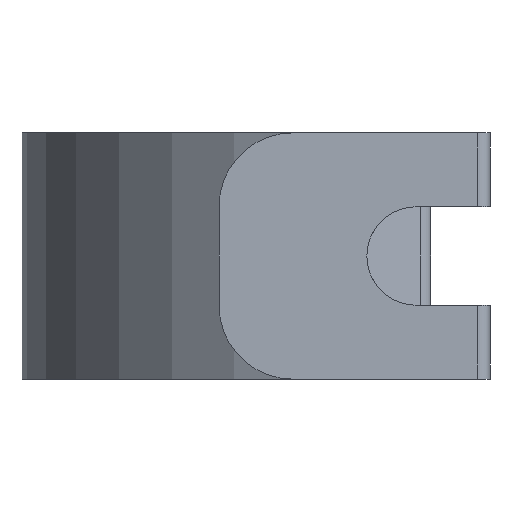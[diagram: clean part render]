
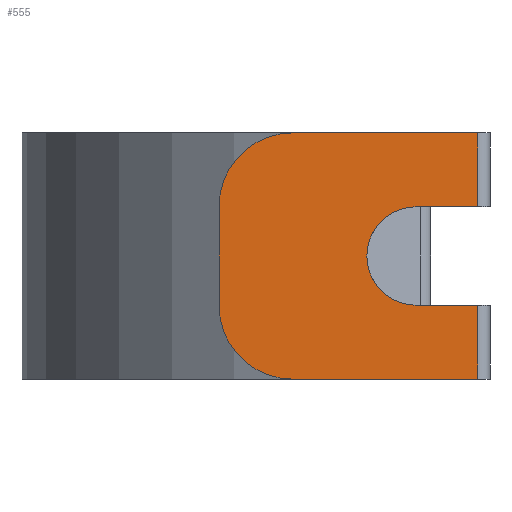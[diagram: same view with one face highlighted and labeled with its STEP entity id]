
A CAD part, left-side view. The second image highlights one B-rep face of the part: STEP entity #555.
In plain terms, the highlighted planar face has unit normal (-1, 0, 0).
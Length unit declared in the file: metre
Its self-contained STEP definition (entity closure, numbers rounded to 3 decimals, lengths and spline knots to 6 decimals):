
#20=CIRCLE('',#601,0.015);
#21=CIRCLE('',#602,0.015);
#22=CIRCLE('',#603,0.01);
#80=ORIENTED_EDGE('',*,*,#252,.F.);
#81=ORIENTED_EDGE('',*,*,#253,.T.);
#82=ORIENTED_EDGE('',*,*,#254,.T.);
#83=ORIENTED_EDGE('',*,*,#255,.T.);
#84=ORIENTED_EDGE('',*,*,#250,.T.);
#85=ORIENTED_EDGE('',*,*,#256,.T.);
#86=ORIENTED_EDGE('',*,*,#257,.F.);
#87=ORIENTED_EDGE('',*,*,#246,.T.);
#88=ORIENTED_EDGE('',*,*,#258,.T.);
#89=ORIENTED_EDGE('',*,*,#259,.T.);
#246=EDGE_CURVE('',#333,#332,#387,.F.);
#250=EDGE_CURVE('',#337,#336,#390,.T.);
#252=EDGE_CURVE('',#338,#339,#392,.T.);
#253=EDGE_CURVE('',#338,#340,#393,.F.);
#254=EDGE_CURVE('',#340,#341,#394,.T.);
#255=EDGE_CURVE('',#341,#337,#20,.T.);
#256=EDGE_CURVE('',#336,#342,#21,.T.);
#257=EDGE_CURVE('',#333,#342,#395,.T.);
#258=EDGE_CURVE('',#332,#343,#396,.T.);
#259=EDGE_CURVE('',#343,#339,#22,.F.);
#332=VERTEX_POINT('',#852);
#333=VERTEX_POINT('',#854);
#336=VERTEX_POINT('',#861);
#337=VERTEX_POINT('',#863);
#338=VERTEX_POINT('',#867);
#339=VERTEX_POINT('',#868);
#340=VERTEX_POINT('',#870);
#341=VERTEX_POINT('',#872);
#342=VERTEX_POINT('',#875);
#343=VERTEX_POINT('',#878);
#387=LINE('',#853,#439);
#390=LINE('',#862,#442);
#392=LINE('',#866,#444);
#393=LINE('',#869,#445);
#394=LINE('',#871,#446);
#395=LINE('',#876,#447);
#396=LINE('',#877,#448);
#439=VECTOR('',#676,1.);
#442=VECTOR('',#683,1.);
#444=VECTOR('',#687,1.);
#445=VECTOR('',#688,1.);
#446=VECTOR('',#689,1.);
#447=VECTOR('',#694,1.);
#448=VECTOR('',#695,1.);
#485=EDGE_LOOP('',(#80,#81,#82,#83,#84,#85,#86,#87,#88,#89));
#513=FACE_BOUND('',#485,.T.);
#539=PLANE('',#600);
#555=ADVANCED_FACE('',(#513),#539,.T.);
#600=AXIS2_PLACEMENT_3D('',#865,#685,#686);
#601=AXIS2_PLACEMENT_3D('',#873,#690,#691);
#602=AXIS2_PLACEMENT_3D('',#874,#692,#693);
#603=AXIS2_PLACEMENT_3D('',#879,#696,#697);
#676=DIRECTION('',(0.,0.,-1.));
#683=DIRECTION('',(0.,0.,-1.));
#685=DIRECTION('',(-1.,0.,0.));
#686=DIRECTION('',(0.,0.,1.));
#687=DIRECTION('',(0.,1.,0.));
#688=DIRECTION('',(0.,0.,-1.));
#689=DIRECTION('',(0.,1.,0.));
#690=DIRECTION('',(-1.,0.,0.));
#691=DIRECTION('',(0.,0.,1.));
#692=DIRECTION('',(-1.,0.,0.));
#693=DIRECTION('',(0.,0.,1.));
#694=DIRECTION('',(0.,1.,0.));
#695=DIRECTION('',(0.,1.,0.));
#696=DIRECTION('',(-1.,0.,0.));
#697=DIRECTION('',(0.,0.,1.));
#852=CARTESIAN_POINT('',(-0.11,0.0025,0.015));
#853=CARTESIAN_POINT('',(-0.11,0.0025,0.05));
#854=CARTESIAN_POINT('',(-0.11,0.0025,0.));
#861=CARTESIAN_POINT('',(-0.11,0.055,0.015));
#862=CARTESIAN_POINT('',(-0.11,0.055,0.05));
#863=CARTESIAN_POINT('',(-0.11,0.055,0.035));
#865=CARTESIAN_POINT('',(-0.11,0.0275,0.05));
#866=CARTESIAN_POINT('',(-0.11,0.0275,0.035));
#867=CARTESIAN_POINT('',(-0.11,0.0025,0.035));
#868=CARTESIAN_POINT('',(-0.11,0.015,0.035));
#869=CARTESIAN_POINT('',(-0.11,0.0025,0.05));
#870=CARTESIAN_POINT('',(-0.11,0.0025,0.05));
#871=CARTESIAN_POINT('',(-0.11,0.0275,0.05));
#872=CARTESIAN_POINT('',(-0.11,0.04,0.05));
#873=CARTESIAN_POINT('',(-0.11,0.04,0.035));
#874=CARTESIAN_POINT('',(-0.11,0.04,0.015));
#875=CARTESIAN_POINT('',(-0.11,0.04,0.));
#876=CARTESIAN_POINT('',(-0.11,0.0275,0.));
#877=CARTESIAN_POINT('',(-0.11,0.0275,0.015));
#878=CARTESIAN_POINT('',(-0.11,0.015,0.015));
#879=CARTESIAN_POINT('',(-0.11,0.015,0.025));
